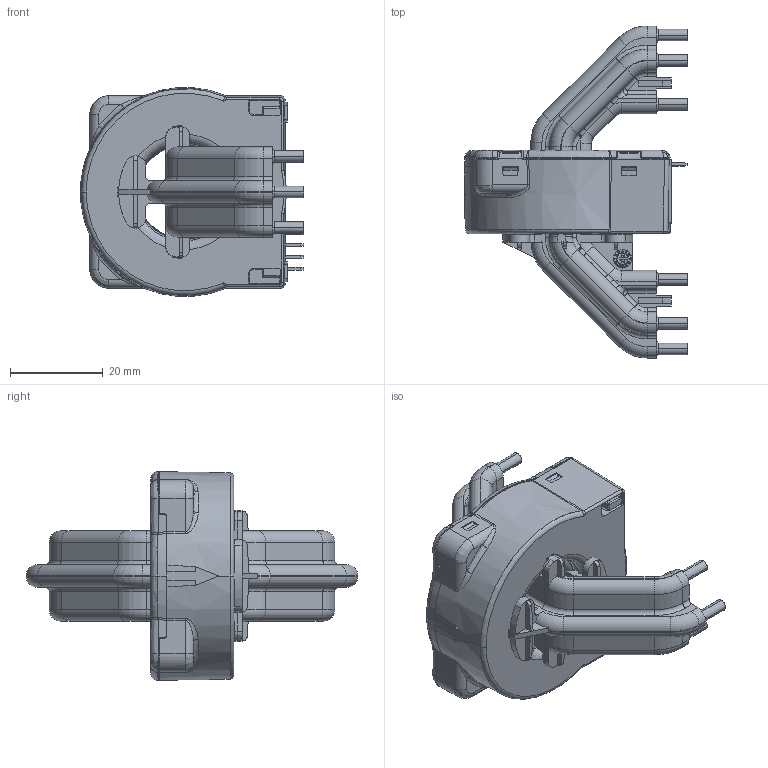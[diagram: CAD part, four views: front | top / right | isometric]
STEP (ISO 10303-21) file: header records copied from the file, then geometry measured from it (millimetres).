
FILE_DESCRIPTION(('Creo Elements/Direct Modeling STEP Export'),'2;1');
FILE_NAME('Black_box_CTSR_0.3_TP_SP4.stp','2011-07-28T13:08:24',(''),(''),'Creo Elements/Direct Modeling STEP processor for AP203 (Solid Model)','Creo Elements/Direct Modeling 17.0C 05-Feb-2011 (C) Parametric Technology GmbH','');
FILE_SCHEMA(('CONFIG_CONTROL_DESIGN'));
Products named in the file (2): Black_box_CTSR_0.3_TP_SP4
Assembly tree (1 placements, depth 2):
  Black_box_CTSR_0.3_TP_SP4
    Black_box_CTSR_0.3_TP_SP4
Bounding box: 48.06 x 71.41 x 44.87 mm (x, y, z)
Surface area: 13243.5 mm2 (no closed solid volume)
Topology: 0 solids, 2 shells, 1630 faces, 4470 edges, 2886 vertices
Faces by surface type: plane 1013, cylinder 291, bspline 162, torus 82, cone 56, extrusion 18, sphere 8
Entity records: 89691 total; most frequent: CARTESIAN_POINT 49961, ORIENTED_EDGE 8906, DIRECTION 7157, EDGE_CURVE 4454, VECTOR 2931, LINE 2913, VERTEX_POINT 2886, AXIS2_PLACEMENT_3D 2113
